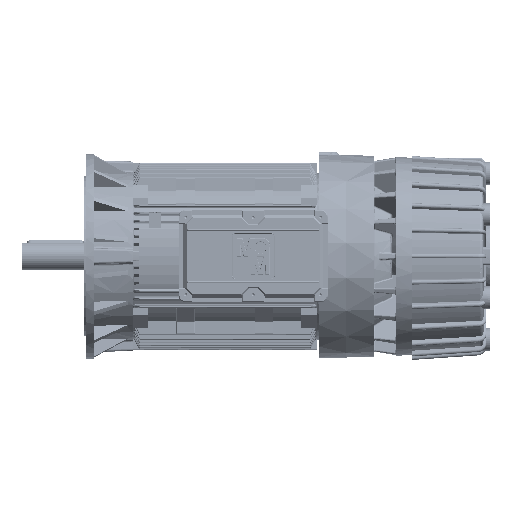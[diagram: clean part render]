
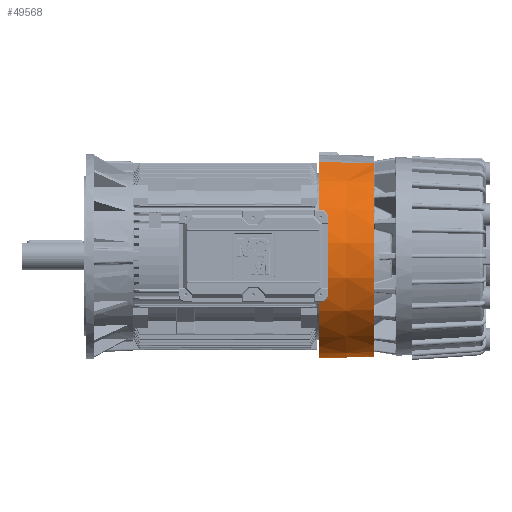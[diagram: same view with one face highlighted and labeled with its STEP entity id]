
A CAD part, top view. The second image highlights one B-rep face of the part: STEP entity #49568.
In plain terms, the highlighted conical face has half-angle 1.5 degrees and reference radius 220.422 mm.
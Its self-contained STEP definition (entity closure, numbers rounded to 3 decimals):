
#475 = VERTEX_POINT ( 'NONE', #36167 ) ;
#3267 = EDGE_CURVE ( 'NONE', #475, #162135, #43397, .T. ) ;
#10282 = ORIENTED_EDGE ( 'NONE', *, *, #21512, .T. ) ;
#19192 = EDGE_CURVE ( 'NONE', #130752, #166990, #234486, .T. ) ;
#20350 = DIRECTION ( 'NONE',  ( 0., -1., 0. ) ) ;
#21512 = EDGE_CURVE ( 'NONE', #130752, #162135, #160862, .T. ) ;
#32768 = DIRECTION ( 'NONE',  ( 0., 0., -1. ) ) ;
#36167 = CARTESIAN_POINT ( 'NONE',  ( 0., 4.973, 223.539 ) ) ;
#43397 = CIRCLE ( 'NONE', #56983, 223.539 ) ;
#49568 = ADVANCED_FACE ( 'NONE', ( #137250 ), #71040, .T. ) ;
#56983 = AXIS2_PLACEMENT_3D ( 'NONE', #153777, #20350, #176194 ) ;
#61309 = AXIS2_PLACEMENT_3D ( 'NONE', #209958, #121391, #32768 ) ;
#71040 = CONICAL_SURFACE ( 'NONE', #61309, 220.422, 0.026 ) ;
#72843 = CARTESIAN_POINT ( 'NONE',  ( 0., 124., 220.422 ) ) ;
#76889 = DIRECTION ( 'NONE',  ( 0., -1., -0.026 ) ) ;
#93329 = CARTESIAN_POINT ( 'NONE',  ( 0., 124., 0. ) ) ;
#99889 = CARTESIAN_POINT ( 'NONE',  ( 0., 124., 220.422 ) ) ;
#114672 = VECTOR ( 'NONE', #236993, 1000. ) ;
#115751 = DIRECTION ( 'NONE',  ( 0., 0., -1. ) ) ;
#121391 = DIRECTION ( 'NONE',  ( 0., -1., 0. ) ) ;
#122484 = ORIENTED_EDGE ( 'NONE', *, *, #3267, .F. ) ;
#122485 = ORIENTED_EDGE ( 'NONE', *, *, #19192, .F. ) ;
#124847 = AXIS2_PLACEMENT_3D ( 'NONE', #93329, #248946, #115751 ) ;
#127410 = CARTESIAN_POINT ( 'NONE',  ( 0., 124., -220.422 ) ) ;
#130752 = VERTEX_POINT ( 'NONE', #222347 ) ;
#137250 = FACE_OUTER_BOUND ( 'NONE', #249586, .T. ) ;
#149670 = EDGE_CURVE ( 'NONE', #166990, #475, #173895, .T. ) ;
#153777 = CARTESIAN_POINT ( 'NONE',  ( 0., 4.973, 0. ) ) ;
#160862 = LINE ( 'NONE', #127410, #279266 ) ;
#162135 = VERTEX_POINT ( 'NONE', #218007 ) ;
#166990 = VERTEX_POINT ( 'NONE', #72843 ) ;
#173895 = LINE ( 'NONE', #99889, #114672 ) ;
#176194 = DIRECTION ( 'NONE',  ( 0., 0., -1. ) ) ;
#209958 = CARTESIAN_POINT ( 'NONE',  ( 0., 124., 0. ) ) ;
#218007 = CARTESIAN_POINT ( 'NONE',  ( 0., 4.973, -223.539 ) ) ;
#222347 = CARTESIAN_POINT ( 'NONE',  ( 0., 124., -220.422 ) ) ;
#234486 = CIRCLE ( 'NONE', #124847, 220.422 ) ;
#236993 = DIRECTION ( 'NONE',  ( 0., -1., 0.026 ) ) ;
#248946 = DIRECTION ( 'NONE',  ( 0., 1., 0. ) ) ;
#249586 = EDGE_LOOP ( 'NONE', ( #254639, #122485, #10282, #122484 ) ) ;
#254639 = ORIENTED_EDGE ( 'NONE', *, *, #149670, .F. ) ;
#279266 = VECTOR ( 'NONE', #76889, 1000. ) ;
